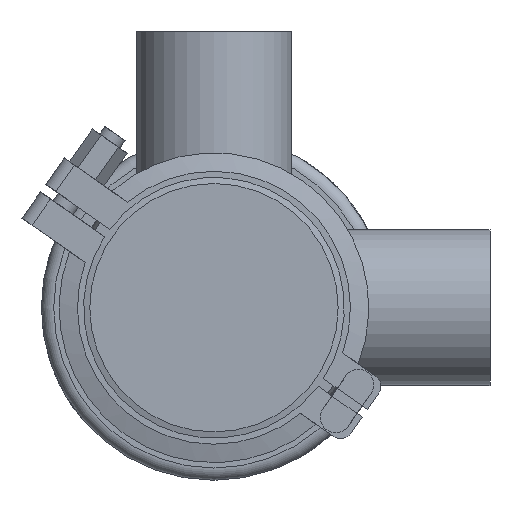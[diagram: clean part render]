
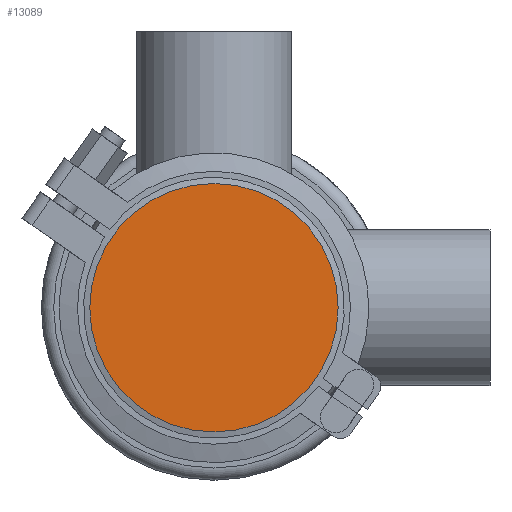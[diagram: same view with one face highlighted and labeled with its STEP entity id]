
A CAD part, front view. The second image highlights one B-rep face of the part: STEP entity #13089.
In plain terms, the highlighted planar face has unit normal (0, -1, 0).
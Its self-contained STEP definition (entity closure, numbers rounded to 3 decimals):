
#489 = DIRECTION ( 'NONE',  ( 0., 0., 1. ) ) ;
#2260 = EDGE_CURVE ( 'NONE', #20844, #20844, #9961, .T. ) ;
#2676 = DIRECTION ( 'NONE',  ( 0., 0., -1. ) ) ;
#3037 = CARTESIAN_POINT ( 'NONE',  ( 0., 0., 40.5 ) ) ;
#4925 = AXIS2_PLACEMENT_3D ( 'NONE', #9237, #18989, #2676 ) ;
#6919 = PLANE ( 'NONE',  #4925 ) ;
#7121 = EDGE_LOOP ( 'NONE', ( #17989 ) ) ;
#9237 = CARTESIAN_POINT ( 'NONE',  ( -40.5, 0., 0. ) ) ;
#9961 = CIRCLE ( 'NONE', #15440, 40.5 ) ;
#11864 = DIRECTION ( 'NONE',  ( 0., 1., 0. ) ) ;
#13089 = ADVANCED_FACE ( 'NONE', ( #15038 ), #6919, .T. ) ;
#15038 = FACE_OUTER_BOUND ( 'NONE', #7121, .T. ) ;
#15440 = AXIS2_PLACEMENT_3D ( 'NONE', #16581, #11864, #489 ) ;
#16581 = CARTESIAN_POINT ( 'NONE',  ( 0., 0., 0. ) ) ;
#17989 = ORIENTED_EDGE ( 'NONE', *, *, #2260, .F. ) ;
#18989 = DIRECTION ( 'NONE',  ( 0., -1., 0. ) ) ;
#20844 = VERTEX_POINT ( 'NONE', #3037 ) ;
